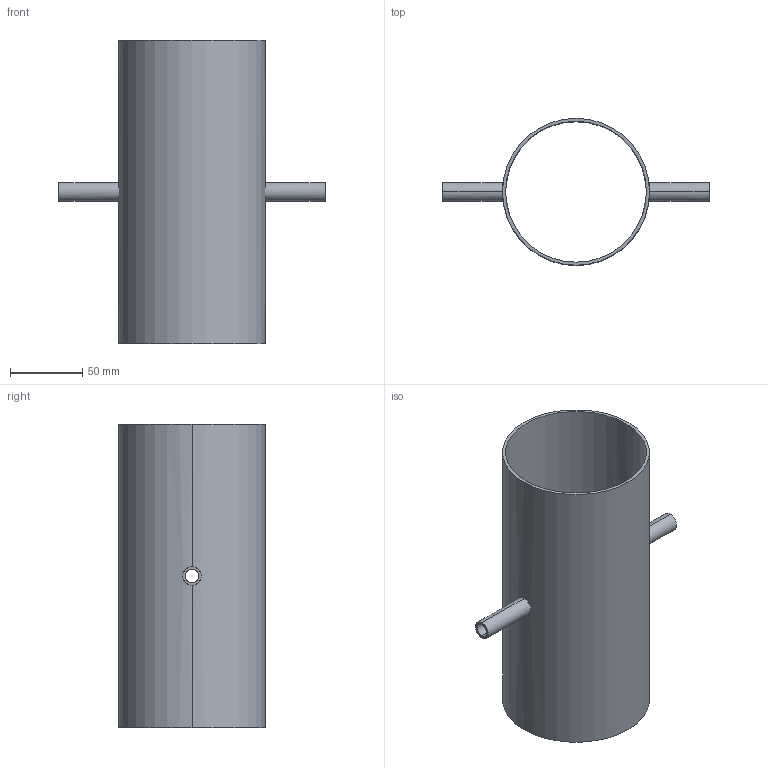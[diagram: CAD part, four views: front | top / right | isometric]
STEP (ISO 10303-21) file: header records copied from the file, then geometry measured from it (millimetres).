
FILE_DESCRIPTION (( 'STEP AP214' ), '1' );
FILE_NAME ('TE9RWWWW6L4.0x.5-...STEP', '2016-05-22T04:38:53', ( 'eran' ), ( '' ), 'SwSTEP 2.0', 'SolidWorks 2016', '' );
FILE_SCHEMA (( 'AUTOMOTIVE_DESIGN' ));
Length unit declared in the file: millimetre
Products named in the file (1): TE9RWWWW6L4.0x.5-..
Bounding box: 184.15 x 101.6 x 209.55 mm (x, y, z)
Volume: 142535.3 mm3; surface area: 137912.7 mm2
Topology: 1 solids, 1 shells, 16 faces, 40 edges, 24 vertices
Faces by surface type: cylinder 12, plane 4
Entity records: 806 total; most frequent: CARTESIAN_POINT 381, DIRECTION 82, ORIENTED_EDGE 80, EDGE_CURVE 40, AXIS2_PLACEMENT_3D 33, VERTEX_POINT 24, EDGE_LOOP 20, ADVANCED_FACE 16
